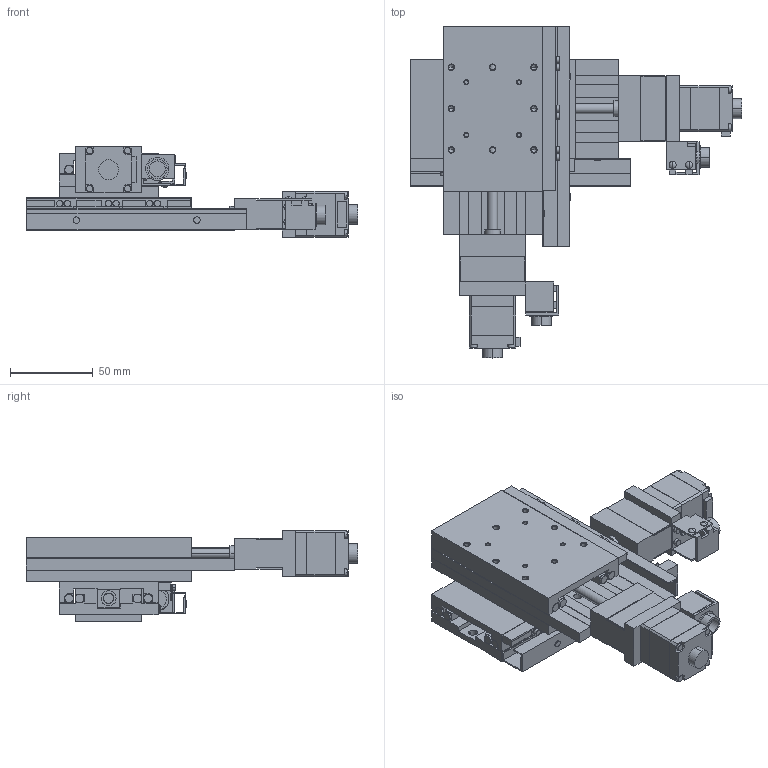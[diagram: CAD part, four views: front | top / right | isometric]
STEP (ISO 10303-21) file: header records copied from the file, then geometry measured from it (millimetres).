
FILE_DESCRIPTION(('STEP AP203'),'1');
FILE_NAME('C:/3D-Trans/3D_PMG650M-R□-T+240122.step','2024-03-14T06:36:39',(' '),(' '),'Spatial InterOp 3D',' ',' ');
FILE_SCHEMA(('CONFIG_CONTROL_DESIGN'));
Length unit declared in the file: millimetre
Products named in the file (13): 1; 2; 3; 4; 5; 6; 7; 8; 9; 10; 11; 12; 13
Bounding box: 201 x 201 x 55 mm (x, y, z)
Volume: 356302.7 mm3; surface area: 165301.3 mm2
Topology: 13 solids, 13 shells, 1216 faces, 3098 edges, 1954 vertices
Faces by surface type: plane 714, cylinder 358, cone 136, sphere 8
Entity records: 36928 total; most frequent: DIRECTION 6466, CARTESIAN_POINT 6233, ORIENTED_EDGE 6100, EDGE_CURVE 3050, AXIS2_PLACEMENT_3D 2187, LINE 2092, VECTOR 2092, VERTEX_POINT 1954
